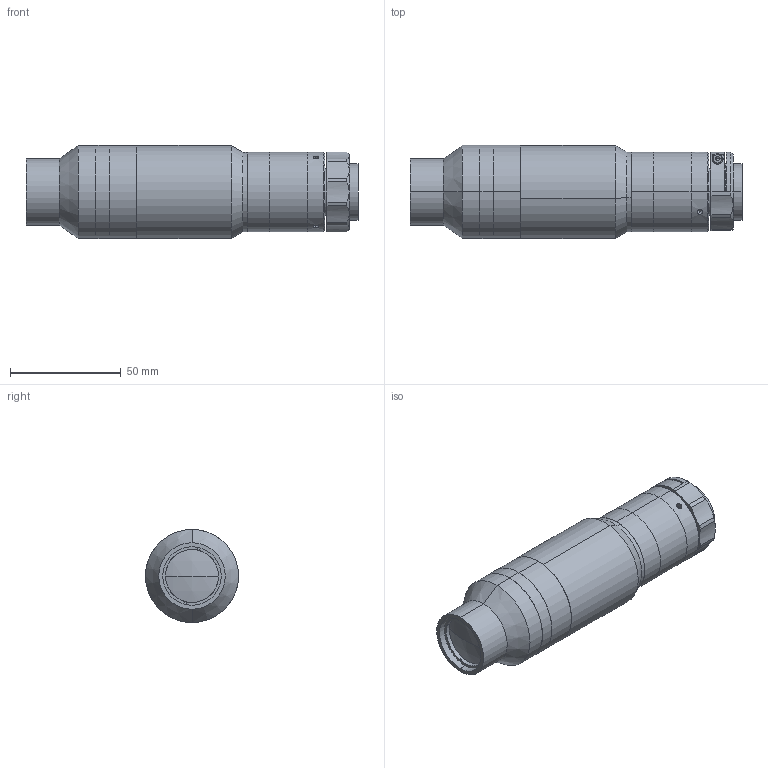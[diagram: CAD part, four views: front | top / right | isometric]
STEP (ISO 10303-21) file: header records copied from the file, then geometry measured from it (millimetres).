
FILE_DESCRIPTION (( 'STEP AP203' ), '1' );
FILE_NAME ('XF-MH03X380.STEP', '2020-08-24T07:12:50', ( 'canrill-02' ), ( '' ), 'SwSTEP 2.0', 'SolidWorks 2014', '' );
FILE_SCHEMA (( 'CONFIG_CONTROL_DESIGN' ));
Length unit declared in the file: millimetre
Products named in the file (1): XF-MH03X380
Bounding box: 149.83 x 42 x 42 mm (x, y, z)
Surface area: 24540.7 mm2 (no closed solid volume)
Topology: 0 solids, 14 shells, 112 faces, 294 edges, 199 vertices
Faces by surface type: cylinder 51, plane 40, cone 17, sphere 2, torus 2
Entity records: 3828 total; most frequent: CARTESIAN_POINT 925, DIRECTION 648, ORIENTED_EDGE 500, EDGE_CURVE 292, AXIS2_PLACEMENT_3D 266, VERTEX_POINT 199, CIRCLE 153, EDGE_LOOP 136
